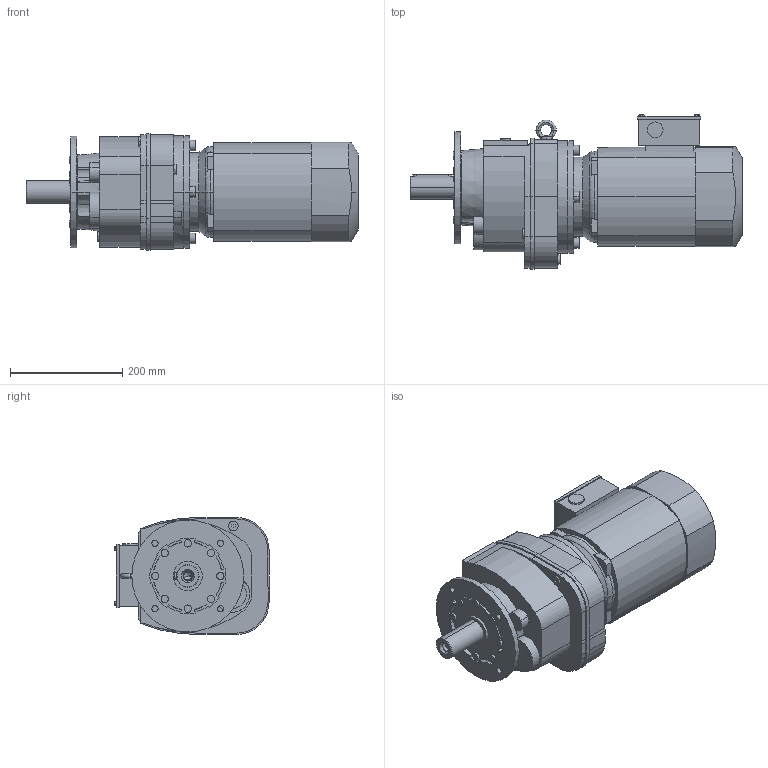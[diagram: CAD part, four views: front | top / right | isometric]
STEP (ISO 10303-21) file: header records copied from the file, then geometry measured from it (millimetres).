
FILE_DESCRIPTION(('STEP AP214'),'1');
FILE_NAME('STEP-File.stp','2018-01-01T00:00:00',(' '),('KEB'),' ','KEB-DRIVE',' ');
FILE_SCHEMA(('AUTOMOTIVE_DESIGN { 1 0 10303 214 1 1 1 1 }'));
Length unit declared in the file: millimetre
Products named in the file (9): g4b; w4_we_40x80; c4_200; cn4; dm100_kkn; kk08; PLUG_M25; ndm100; G43C DM90SD4§CAD13
Assembly tree (8 placements, depth 2):
  G43C DM90SD4§CAD13
    g4b
    w4_we_40x80
    c4_200
    cn4
    dm100_kkn
    kk08
    PLUG_M25
    ndm100
Bounding box: 590.5 x 274 x 208 mm (x, y, z)
Volume: 15173082.3 mm3; surface area: 722576.9 mm2
Topology: 8 solids, 8 shells, 550 faces, 1593 edges, 1235 vertices
Faces by surface type: plane 336, cylinder 137, cone 62, torus 11, bspline 4
Entity records: 23319 total; most frequent: CARTESIAN_POINT 9205, ORIENTED_EDGE 3182, DIRECTION 2256, EDGE_CURVE 1591, VERTEX_POINT 1235, VECTOR 1098, LINE 1098, EDGE_LOOP 738
